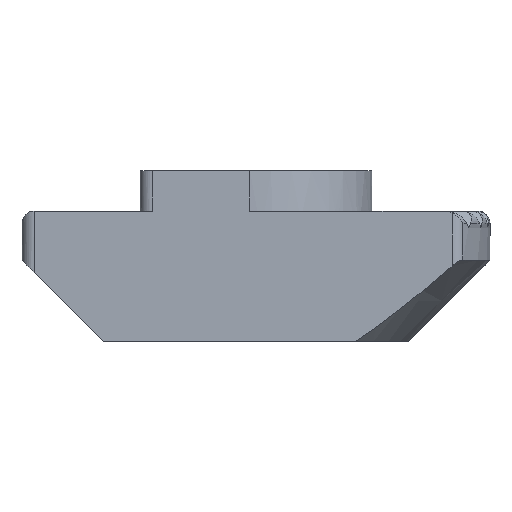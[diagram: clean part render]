
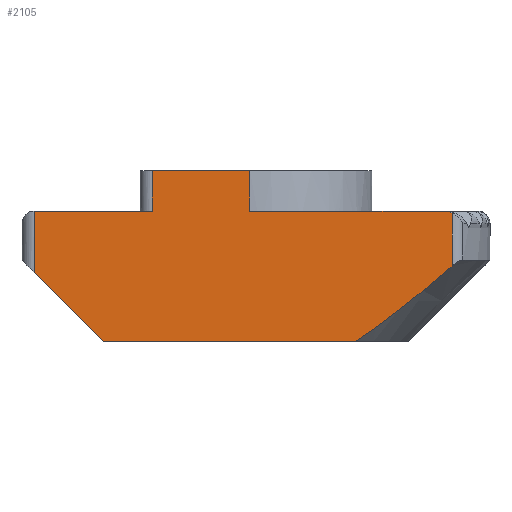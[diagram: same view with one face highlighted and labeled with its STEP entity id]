
A CAD part, front view. The second image highlights one B-rep face of the part: STEP entity #2105.
In plain terms, the highlighted planar face has unit normal (0, -1, 0).
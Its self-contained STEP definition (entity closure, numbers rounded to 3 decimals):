
#151=CARTESIAN_POINT('',(-2.55,-2.85,4.2));
#152=VERTEX_POINT('',#151);
#160=CARTESIAN_POINT('',(-0.15,-2.85,4.2));
#161=VERTEX_POINT('',#160);
#162=CARTESIAN_POINT('',(-2.55,-2.85,4.2));
#163=DIRECTION('',(1.0,0.0,0.0));
#164=VECTOR('',#163,2.4);
#165=LINE('',#162,#164);
#166=EDGE_CURVE('',#152,#161,#165,.T.);
#230=CARTESIAN_POINT('',(-0.15,-2.85,3.2));
#231=VERTEX_POINT('',#230);
#239=CARTESIAN_POINT('',(4.645,-2.85,3.2));
#240=VERTEX_POINT('',#239);
#241=CARTESIAN_POINT('',(-0.15,-2.85,3.2));
#242=DIRECTION('',(1.0,0.0,0.0));
#243=VECTOR('',#242,4.795);
#244=LINE('',#241,#243);
#245=EDGE_CURVE('',#231,#240,#244,.T.);
#262=CARTESIAN_POINT('',(-5.45,-2.85,3.2));
#263=VERTEX_POINT('',#262);
#264=CARTESIAN_POINT('',(-2.55,-2.85,3.2));
#265=VERTEX_POINT('',#264);
#266=CARTESIAN_POINT('',(-5.45,-2.85,3.2));
#267=DIRECTION('',(1.0,0.0,0.0));
#268=VECTOR('',#267,2.9);
#269=LINE('',#266,#268);
#270=EDGE_CURVE('',#263,#265,#269,.T.);
#1838=CARTESIAN_POINT('',(4.817,-2.85,3.162));
#1839=VERTEX_POINT('',#1838);
#1840=CARTESIAN_POINT('',(4.817,-2.85,3.162));
#1841=CARTESIAN_POINT('',(4.809,-2.85,3.165));
#1842=CARTESIAN_POINT('',(4.802,-2.85,3.168));
#1843=CARTESIAN_POINT('',(4.795,-2.85,3.171));
#1844=CARTESIAN_POINT('',(4.76,-2.85,3.186));
#1845=CARTESIAN_POINT('',(4.719,-2.85,3.195));
#1846=CARTESIAN_POINT('',(4.679,-2.85,3.199));
#1847=CARTESIAN_POINT('',(4.668,-2.85,3.2));
#1848=CARTESIAN_POINT('',(4.656,-2.85,3.2));
#1849=CARTESIAN_POINT('',(4.645,-2.85,3.2));
#1850=B_SPLINE_CURVE_WITH_KNOTS('',3,(#1840,#1841,#1842,#1843,#1844,#1845,#1846,#1847,#1848,#1849),.UNSPECIFIED.,.F.,.U.,(4,3,3,4),(0.031,0.034,0.045,0.048),.UNSPECIFIED.);
#1851=EDGE_CURVE('',#1839,#240,#1850,.T.);
#2037=CARTESIAN_POINT('',(-5.75,-2.85,3.2));
#2038=DIRECTION('',(0.0,1.0,0.0));
#2039=DIRECTION('',(0.0,0.0,1.0));
#2040=AXIS2_PLACEMENT_3D('',#2037,#2038,#2039);
#2041=PLANE('',#2040);
#2042=CARTESIAN_POINT('',(2.437,-2.85,0.0));
#2043=VERTEX_POINT('',#2042);
#2044=CARTESIAN_POINT('',(4.817,-2.85,1.847));
#2045=VERTEX_POINT('',#2044);
#2046=CARTESIAN_POINT('',(-8.484,-2.85,5.2));
#2047=CARTESIAN_POINT('',(0.0,-2.85,-2.842));
#2048=CARTESIAN_POINT('',(8.484,-2.85,5.2));
#2056=(BOUNDED_CURVE()B_SPLINE_CURVE(2,(#2046,#2047,#2048),.UNSPECIFIED.,.F.,.U.)B_SPLINE_CURVE_WITH_KNOTS((3,3),(0.0,2.09),.UNSPECIFIED.)CURVE()GEOMETRIC_REPRESENTATION_ITEM()RATIONAL_B_SPLINE_CURVE((1.0,3.14,1.0))REPRESENTATION_ITEM(''));
#2057=EDGE_CURVE('',#2043,#2045,#2056,.T.);
#2058=ORIENTED_EDGE('',*,*,#2057,.T.);
#2059=CARTESIAN_POINT('',(4.817,-2.85,1.847));
#2060=DIRECTION('',(0.0,0.0,1.0));
#2061=VECTOR('',#2060,1.315);
#2062=LINE('',#2059,#2061);
#2063=EDGE_CURVE('',#2045,#1839,#2062,.T.);
#2064=ORIENTED_EDGE('',*,*,#2063,.T.);
#2065=ORIENTED_EDGE('',*,*,#1851,.T.);
#2066=ORIENTED_EDGE('',*,*,#245,.F.);
#2067=CARTESIAN_POINT('',(-0.15,-2.85,4.2));
#2068=DIRECTION('',(0.0,0.0,-1.0));
#2069=VECTOR('',#2068,1.);
#2070=LINE('',#2067,#2069);
#2071=EDGE_CURVE('',#161,#231,#2070,.T.);
#2072=ORIENTED_EDGE('',*,*,#2071,.F.);
#2073=ORIENTED_EDGE('',*,*,#166,.F.);
#2074=CARTESIAN_POINT('',(-2.55,-2.85,4.2));
#2075=DIRECTION('',(0.0,0.0,-1.0));
#2076=VECTOR('',#2075,1.);
#2077=LINE('',#2074,#2076);
#2078=EDGE_CURVE('',#152,#265,#2077,.T.);
#2079=ORIENTED_EDGE('',*,*,#2078,.T.);
#2080=ORIENTED_EDGE('',*,*,#270,.F.);
#2081=CARTESIAN_POINT('',(-5.45,-2.85,1.7));
#2082=VERTEX_POINT('',#2081);
#2083=CARTESIAN_POINT('',(-5.45,-2.85,3.2));
#2084=DIRECTION('',(0.0,0.0,-1.0));
#2085=VECTOR('',#2084,1.5);
#2086=LINE('',#2083,#2085);
#2087=EDGE_CURVE('',#263,#2082,#2086,.T.);
#2088=ORIENTED_EDGE('',*,*,#2087,.T.);
#2089=CARTESIAN_POINT('',(-3.75,-2.85,0.0));
#2090=VERTEX_POINT('',#2089);
#2091=CARTESIAN_POINT('',(-5.45,-2.85,1.7));
#2092=DIRECTION('',(0.707,0.0,-0.707));
#2093=VECTOR('',#2092,2.404);
#2094=LINE('',#2091,#2093);
#2095=EDGE_CURVE('',#2082,#2090,#2094,.T.);
#2096=ORIENTED_EDGE('',*,*,#2095,.T.);
#2097=CARTESIAN_POINT('',(-3.75,-2.85,0.0));
#2098=DIRECTION('',(1.0,0.0,0.0));
#2099=VECTOR('',#2098,6.187);
#2100=LINE('',#2097,#2099);
#2101=EDGE_CURVE('',#2090,#2043,#2100,.T.);
#2102=ORIENTED_EDGE('',*,*,#2101,.T.);
#2103=EDGE_LOOP('',(#2058,#2064,#2065,#2066,#2072,#2073,#2079,#2080,#2088,#2096,#2102));
#2104=FACE_OUTER_BOUND('',#2103,.T.);
#2105=ADVANCED_FACE('',(#2104),#2041,.F.);
